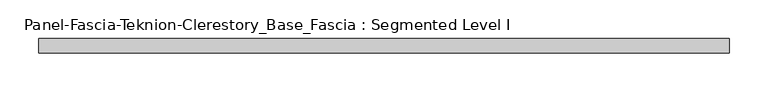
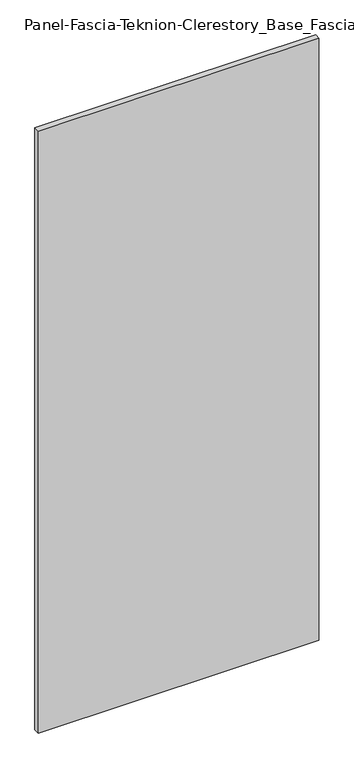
"""IFC4 building model written with IfcOpenShell, lengths in millimetres: proxy geometry, Panel-Fascia-Teknion-Clerestory_Base_Fascia : Segmented Level I."""

from ifc_helpers import new_model, si_unit, frame, origin, place, context, project, spatial, polyline, outline, extrude, source, transform, mapped, element, save


def panel_fascia_teknion_clerestory_base_fascia_segmented_level_e8cfd076(model_context):
    return source(origin(), model_context, "Body", "SweptSolid", [
        extrude(outline(polyline([(447.6198344, -9.525), (-447.6198344, -9.525), (-447.6198344, 9.525), (447.6198344, 9.525), (447.6198344, -9.525)])), frame((0.0, 0.0, 3.175), z_axis=(0.0, 0.0, 1.0), x_axis=(1.0, 0.0, 0.0)), (0.0, 0.0, 1.0), 2029.968),
    ])


if __name__ == "__main__":
    model = new_model("IFC4")
    model_context = context("Model", 3, world=origin())
    ifc_project = project(units=[si_unit("LENGTHUNIT", "METRE", prefix="MILLI")], contexts=[model_context])
    site = spatial("IfcSite", under=ifc_project)
    building = spatial("IfcBuilding", under=site)
    placement = place(None, origin())
    panel_fascia_teknion_clerestory_base_fascia_segmented_level_shape = panel_fascia_teknion_clerestory_base_fascia_segmented_level_e8cfd076(model_context)
    element("IfcBuildingElementProxy", 1, Name="Panel-Fascia-Teknion-Clerestory_Base_Fascia : Segmented Level I", ObjectType="Panel-Fascia-Teknion-Clerestory_Base_Fascia : Segmented Level I", at=placement, inside=building, context=model_context, shape_type="MappedRepresentation", body=[
        mapped(panel_fascia_teknion_clerestory_base_fascia_segmented_level_shape, transform((0.0, 0.0, 0.0), x_axis=(1.0, 0.0, 0.0), y_axis=(0.0, 1.0, 0.0), z_axis=(0.0, 0.0, 1.0))),
    ])
    save(model, "model.ifc")
